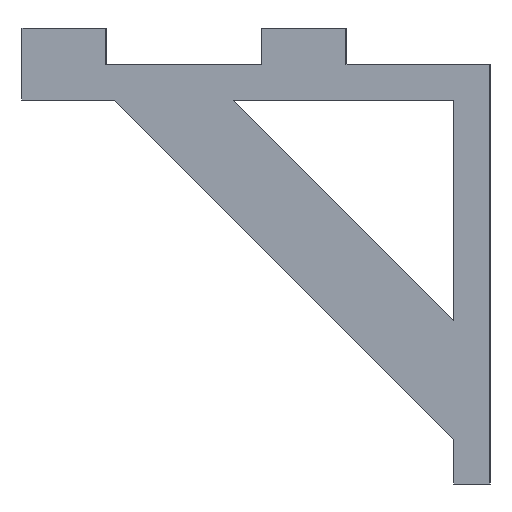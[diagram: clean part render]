
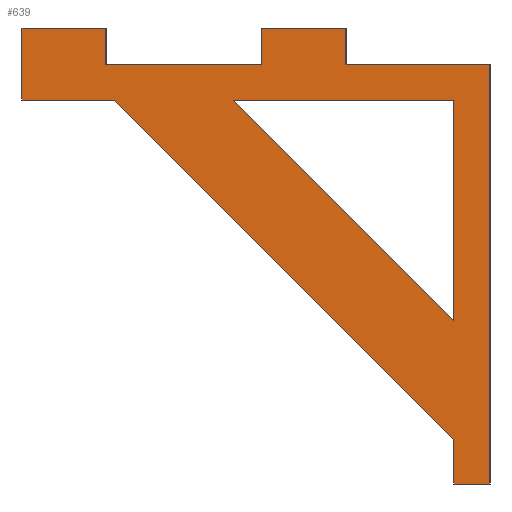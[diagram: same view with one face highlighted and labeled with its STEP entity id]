
A CAD part, left-side view. The second image highlights one B-rep face of the part: STEP entity #639.
In plain terms, the highlighted planar face has unit normal (-1, 0, 0).
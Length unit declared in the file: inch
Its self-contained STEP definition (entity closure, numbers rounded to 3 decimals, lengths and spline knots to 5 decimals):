
#15=FACE_BOUND('',#70,.T.);
#39=FACE_OUTER_BOUND('',#69,.T.);
#69=EDGE_LOOP('',(#523,#524,#525,#526,#527,#528,#529,#530,#531,#532,#533,
#534,#535));
#70=EDGE_LOOP('',(#536,#537,#538));
#79=LINE('',#853,#169);
#83=LINE('',#862,#173);
#90=LINE('',#876,#180);
#94=LINE('',#885,#184);
#97=LINE('',#891,#187);
#101=LINE('',#898,#191);
#102=LINE('',#901,#192);
#105=LINE('',#906,#195);
#107=LINE('',#910,#197);
#110=LINE('',#914,#200);
#153=LINE('',#998,#243);
#154=LINE('',#1001,#244);
#155=LINE('',#1003,#245);
#156=LINE('',#1004,#246);
#157=LINE('',#1006,#247);
#158=LINE('',#1007,#248);
#169=VECTOR('',#701,0.3937);
#173=VECTOR('',#707,0.3937);
#180=VECTOR('',#718,0.3937);
#184=VECTOR('',#724,0.3937);
#187=VECTOR('',#729,0.3937);
#191=VECTOR('',#733,0.3937);
#192=VECTOR('',#736,0.3937);
#195=VECTOR('',#741,0.3937);
#197=VECTOR('',#745,0.3937);
#200=VECTOR('',#748,0.3937);
#243=VECTOR('',#817,0.3937);
#244=VECTOR('',#820,0.3937);
#245=VECTOR('',#821,0.3937);
#246=VECTOR('',#822,0.3937);
#247=VECTOR('',#823,0.3937);
#248=VECTOR('',#824,0.3937);
#259=VERTEX_POINT('',#851);
#260=VERTEX_POINT('',#852);
#263=VERTEX_POINT('',#860);
#264=VERTEX_POINT('',#861);
#267=VERTEX_POINT('',#872);
#269=VERTEX_POINT('',#875);
#271=VERTEX_POINT('',#881);
#273=VERTEX_POINT('',#884);
#275=VERTEX_POINT('',#890);
#278=VERTEX_POINT('',#896);
#279=VERTEX_POINT('',#900);
#281=VERTEX_POINT('',#909);
#310=VERTEX_POINT('',#996);
#311=VERTEX_POINT('',#1000);
#312=VERTEX_POINT('',#1002);
#313=VERTEX_POINT('',#1005);
#317=EDGE_CURVE('',#259,#260,#79,.T.);
#321=EDGE_CURVE('',#263,#264,#83,.T.);
#328=EDGE_CURVE('',#269,#267,#90,.T.);
#332=EDGE_CURVE('',#273,#271,#94,.T.);
#335=EDGE_CURVE('',#275,#259,#97,.T.);
#339=EDGE_CURVE('',#264,#278,#101,.T.);
#340=EDGE_CURVE('',#278,#279,#102,.T.);
#343=EDGE_CURVE('',#279,#269,#105,.T.);
#345=EDGE_CURVE('',#281,#263,#107,.T.);
#348=EDGE_CURVE('',#260,#275,#110,.T.);
#391=EDGE_CURVE('',#271,#310,#153,.T.);
#392=EDGE_CURVE('',#267,#311,#154,.T.);
#393=EDGE_CURVE('',#312,#311,#155,.T.);
#394=EDGE_CURVE('',#273,#312,#156,.T.);
#395=EDGE_CURVE('',#313,#310,#157,.T.);
#396=EDGE_CURVE('',#281,#313,#158,.T.);
#523=ORIENTED_EDGE('',*,*,#321,.T.);
#524=ORIENTED_EDGE('',*,*,#339,.T.);
#525=ORIENTED_EDGE('',*,*,#340,.T.);
#526=ORIENTED_EDGE('',*,*,#343,.T.);
#527=ORIENTED_EDGE('',*,*,#328,.T.);
#528=ORIENTED_EDGE('',*,*,#392,.T.);
#529=ORIENTED_EDGE('',*,*,#393,.F.);
#530=ORIENTED_EDGE('',*,*,#394,.F.);
#531=ORIENTED_EDGE('',*,*,#332,.T.);
#532=ORIENTED_EDGE('',*,*,#391,.T.);
#533=ORIENTED_EDGE('',*,*,#395,.F.);
#534=ORIENTED_EDGE('',*,*,#396,.F.);
#535=ORIENTED_EDGE('',*,*,#345,.T.);
#536=ORIENTED_EDGE('',*,*,#348,.T.);
#537=ORIENTED_EDGE('',*,*,#335,.T.);
#538=ORIENTED_EDGE('',*,*,#317,.T.);
#609=PLANE('',#689);
#639=ADVANCED_FACE('',(#39,#15),#609,.T.);
#689=AXIS2_PLACEMENT_3D('',#999,#818,#819);
#701=DIRECTION('',(0.,0.707,0.707));
#707=DIRECTION('',(0.,-0.707,-0.707));
#718=DIRECTION('',(0.,1.,0.));
#724=DIRECTION('',(0.,1.,0.));
#729=DIRECTION('',(0.,0.,-1.));
#733=DIRECTION('',(0.,0.,-1.));
#736=DIRECTION('',(0.,-1.,0.));
#741=DIRECTION('',(0.,0.,1.));
#745=DIRECTION('',(0.,-1.,0.));
#748=DIRECTION('',(0.,-1.,0.));
#817=DIRECTION('',(0.,0.,1.));
#818=DIRECTION('center_axis',(-1.,0.,0.));
#819=DIRECTION('ref_axis',(0.,-1.,0.));
#820=DIRECTION('',(0.,0.,1.));
#821=DIRECTION('',(0.,-1.,0.));
#822=DIRECTION('',(0.,0.,1.));
#823=DIRECTION('',(0.,-1.,0.));
#824=DIRECTION('',(0.,0.,1.));
#851=CARTESIAN_POINT('',(0.,-4.5,-10.69239));
#852=CARTESIAN_POINT('',(0.,4.69239,-1.5));
#853=CARTESIAN_POINT('',(0.,-4.5,-10.69239));
#860=CARTESIAN_POINT('',(0.,9.64214,-1.5));
#861=CARTESIAN_POINT('',(0.,-4.5,-15.64214));
#862=CARTESIAN_POINT('',(0.,9.64214,-1.5));
#872=CARTESIAN_POINT('',(0.,0.,0.));
#875=CARTESIAN_POINT('',(0.,-6.,0.));
#876=CARTESIAN_POINT('',(0.,-6.,0.));
#881=CARTESIAN_POINT('',(0.,10.,0.));
#884=CARTESIAN_POINT('',(0.,3.5,0.));
#885=CARTESIAN_POINT('',(0.,-6.,0.));
#890=CARTESIAN_POINT('',(0.,-4.5,-1.5));
#891=CARTESIAN_POINT('',(0.,-4.5,-1.5));
#896=CARTESIAN_POINT('',(0.,-4.5,-17.5));
#898=CARTESIAN_POINT('',(0.,-4.5,-1.5));
#900=CARTESIAN_POINT('',(0.,-6.,-17.5));
#901=CARTESIAN_POINT('',(0.,-4.5,-17.5));
#906=CARTESIAN_POINT('',(0.,-6.,-17.5));
#909=CARTESIAN_POINT('',(0.,13.5,-1.5));
#910=CARTESIAN_POINT('',(0.,13.5,-1.5));
#914=CARTESIAN_POINT('',(0.,13.5,-1.5));
#996=CARTESIAN_POINT('',(0.,10.,1.5));
#998=CARTESIAN_POINT('',(0.,10.,0.));
#999=CARTESIAN_POINT('Origin',(0.,13.5,0.));
#1000=CARTESIAN_POINT('',(0.,0.,1.5));
#1001=CARTESIAN_POINT('',(0.,0.,0.));
#1002=CARTESIAN_POINT('',(0.,3.5,1.5));
#1003=CARTESIAN_POINT('',(0.,3.5,1.5));
#1004=CARTESIAN_POINT('',(0.,3.5,0.));
#1005=CARTESIAN_POINT('',(0.,13.5,1.5));
#1006=CARTESIAN_POINT('',(0.,13.5,1.5));
#1007=CARTESIAN_POINT('',(0.,13.5,0.));
